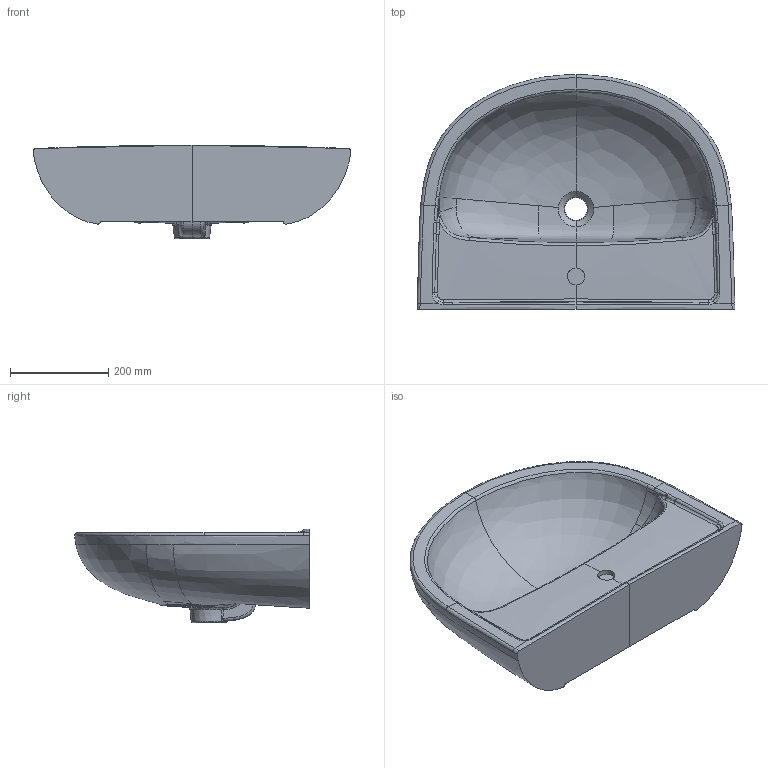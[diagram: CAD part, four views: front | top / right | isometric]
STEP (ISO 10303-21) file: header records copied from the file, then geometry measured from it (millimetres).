
FILE_DESCRIPTION(/* description */ (''),/* implementation_level */ '2;1');
FILE_NAME(/* name */ '7G1165_SAVAL_2_0_WT_65.stp',/* time_stamp */ '2019-01-02T14:21:13+01:00',/* author */ (''),/* organization */ (''),/* preprocessor_version */ 'ST-DEVELOPER v16',/* originating_system */ 'SIEMENS PLM Software NX 10.0',/* authorisation */ '');
FILE_SCHEMA (('AUTOMOTIVE_DESIGN { 1 0 10303 214 3 1 1 1 }'));
Length unit declared in the file: millimetre
Products named in the file (1): Sier1698FB05owlo
Bounding box: 648.63 x 479.25 x 191 mm (x, y, z)
Volume: 18148756.8 mm3; surface area: 843808.5 mm2
Topology: 1 solids, 1 shells, 171 faces, 431 edges, 258 vertices
Faces by surface type: bspline 154, plane 8, cylinder 3, revolution 2, cone 2, sphere 2
Full cylindrical faces by diameter (mm): 24 x1, 35 x1, 46 x1
Entity records: 24657 total; most frequent: CARTESIAN_POINT 21904, ORIENTED_EDGE 848, EDGE_CURVE 424, B_SPLINE_CURVE_WITH_KNOTS 301, VERTEX_POINT 256, EDGE_LOOP 174, ADVANCED_FACE 171, FACE_OUTER_BOUND 168
